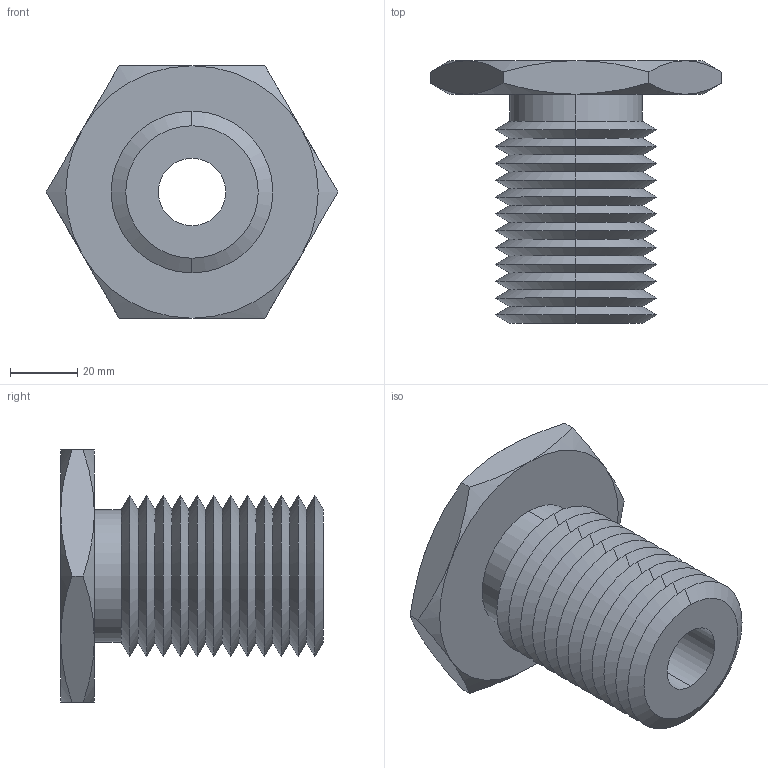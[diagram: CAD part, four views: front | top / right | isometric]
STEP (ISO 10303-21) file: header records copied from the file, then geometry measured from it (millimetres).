
FILE_DESCRIPTION (( 'STEP AP203' ), '1' );
FILE_NAME ('63302.W0048_M20x2,5.step', '2013-12-08T11:16:51', ( 'User' ), ( '' ), 'SwSTEP 2.0', 'SolidWorks 2009', '' );
FILE_SCHEMA (( 'CONFIG_CONTROL_DESIGN' ));
Length unit declared in the file: millimetre
Products named in the file (1): 63302.W0048_M20x2,5
Bounding box: 86.6 x 78 x 75 mm (x, y, z)
Volume: 122966.8 mm3; surface area: 33524.7 mm2
Topology: 1 solids, 1 shells, 75 faces, 154 edges, 82 vertices
Faces by surface type: cone 62, plane 9, cylinder 4
Entity records: 2139 total; most frequent: CARTESIAN_POINT 496, DIRECTION 352, ORIENTED_EDGE 308, EDGE_CURVE 154, AXIS2_PLACEMENT_3D 146, VERTEX_POINT 82, EDGE_LOOP 78, ADVANCED_FACE 75
